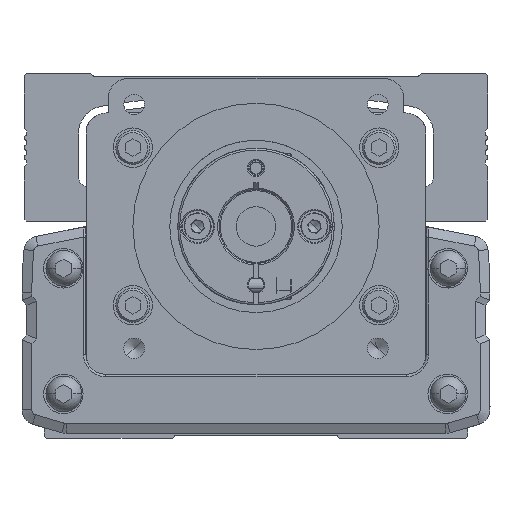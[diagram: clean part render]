
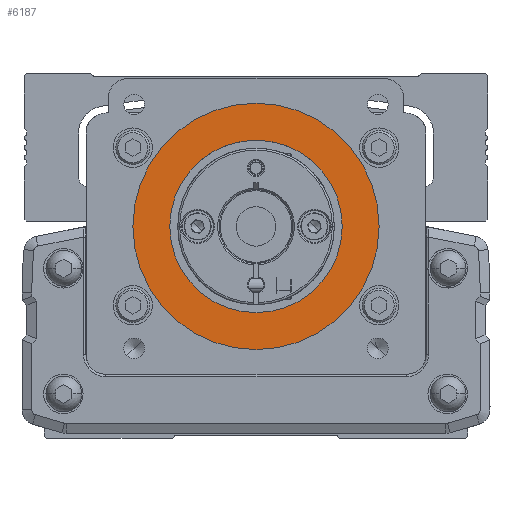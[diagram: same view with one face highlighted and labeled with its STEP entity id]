
A CAD part, front view. The second image highlights one B-rep face of the part: STEP entity #6187.
In plain terms, the highlighted planar face has unit normal (0, -1, 0).
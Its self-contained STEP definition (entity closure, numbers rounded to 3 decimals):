
#6187=ADVANCED_FACE('',(#13828,#13829),#13830,.T.);
#13828=FACE_BOUND('',#24174,.T.);
#13829=FACE_OUTER_BOUND('',#24175,.T.);
#13830=PLANE('',#24176);
#24174=EDGE_LOOP('',(#42977,#42978));
#24175=EDGE_LOOP('',(#42979,#42980));
#24176=AXIS2_PLACEMENT_3D('',#42981,#42982,#42983);
#42977=ORIENTED_EDGE('',*,*,#61714,.T.);
#42978=ORIENTED_EDGE('',*,*,#63487,.T.);
#42979=ORIENTED_EDGE('',*,*,#63593,.F.);
#42980=ORIENTED_EDGE('',*,*,#63594,.F.);
#42981=CARTESIAN_POINT('',(0.,39.222,0.));
#42982=DIRECTION('',(0.,-1.0,0.));
#42983=DIRECTION('',(1.0,0.,0.));
#61714=EDGE_CURVE('',#75495,#75493,#75496,.T.);
#63487=EDGE_CURVE('',#75493,#75495,#78025,.T.);
#63593=EDGE_CURVE('',#78167,#78168,#78169,.T.);
#63594=EDGE_CURVE('',#78168,#78167,#78170,.T.);
#75493=VERTEX_POINT('',#94659);
#75495=VERTEX_POINT('',#94662);
#75496=CIRCLE('',#94663,17.5);
#78025=CIRCLE('',#98239,17.5);
#78167=VERTEX_POINT('',#98503);
#78168=VERTEX_POINT('',#98504);
#78169=CIRCLE('',#98505,25.0);
#78170=CIRCLE('',#98506,25.0);
#94659=CARTESIAN_POINT('',(-17.5,39.222,0.));
#94662=CARTESIAN_POINT('',(17.5,39.222,0.));
#94663=AXIS2_PLACEMENT_3D('',#111120,#111121,#111122);
#98239=AXIS2_PLACEMENT_3D('',#113525,#113526,#113527);
#98503=CARTESIAN_POINT('',(25.,39.222,0.));
#98504=CARTESIAN_POINT('',(-25.,39.222,0.));
#98505=AXIS2_PLACEMENT_3D('',#113639,#113640,#113641);
#98506=AXIS2_PLACEMENT_3D('',#113642,#113643,#113644);
#111120=CARTESIAN_POINT('',(0.,39.222,0.));
#111121=DIRECTION('',(0.,1.0,0.));
#111122=DIRECTION('',(-1.0,0.,0.));
#113525=CARTESIAN_POINT('',(0.,39.222,0.));
#113526=DIRECTION('',(0.,1.0,0.));
#113527=DIRECTION('',(-1.0,0.,0.));
#113639=CARTESIAN_POINT('',(0.,39.222,0.));
#113640=DIRECTION('',(0.,1.0,0.));
#113641=DIRECTION('',(1.0,0.,0.));
#113642=CARTESIAN_POINT('',(0.,39.222,0.));
#113643=DIRECTION('',(0.,1.0,0.));
#113644=DIRECTION('',(1.0,0.,0.));
